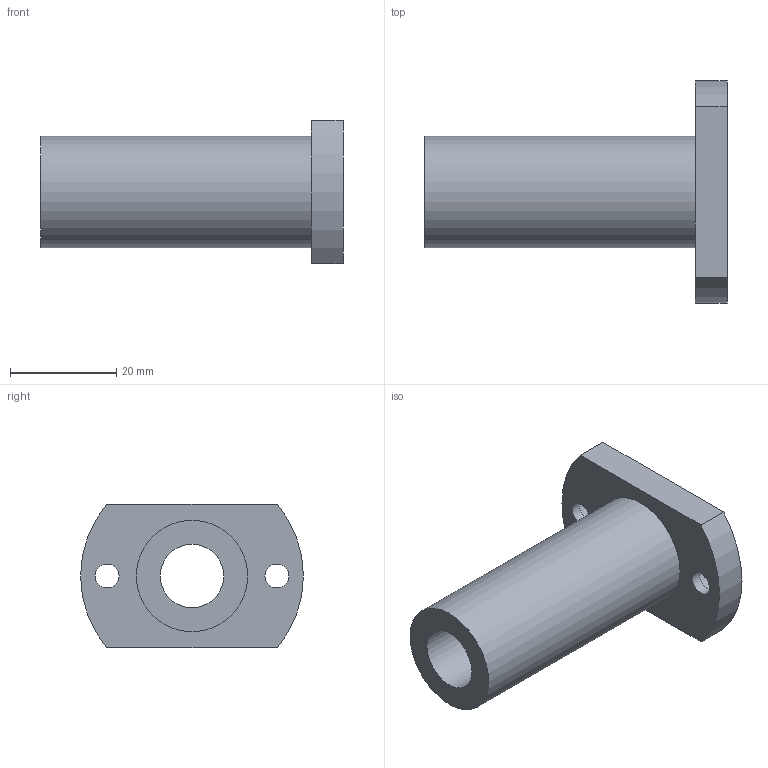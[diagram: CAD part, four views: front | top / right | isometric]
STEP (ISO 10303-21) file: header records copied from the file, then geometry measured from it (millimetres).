
FILE_DESCRIPTION(/* description */ ('Unknown'),/* implementation_level */ '2;1');
FILE_NAME(/* name */ 'LMH12LUU',/* time_stamp */ '2025-02-04T10:28:16+08:00',/* author */ ('Unknown'),/* organization */ ('Unknown'),/* preprocessor_version */ 'ST-DEVELOPER v18.102',/* originating_system */ 'Solid Edge',/* authorisation */ 'Unknown');
FILE_SCHEMA (('AUTOMOTIVE_DESIGN {1 0 10303 214 3 1 1}'));
Length unit declared in the file: millimetre
Products named in the file (1): LMH12LUU
Bounding box: 57 x 42 x 27 mm (x, y, z)
Volume: 17096 mm3; surface area: 8308.9 mm2
Topology: 1 solids, 1 shells, 15 faces, 30 edges, 20 vertices
Faces by surface type: cylinder 8, plane 7
Full cylindrical faces by diameter (mm): 4.5 x2, 7.5 x2, 12 x1, 21 x1
Entity records: 412 total; most frequent: DIRECTION 72, CARTESIAN_POINT 60, ORIENTED_EDGE 48, AXIS2_PLACEMENT_3D 32, EDGE_LOOP 30, FACE_BOUND 30, EDGE_CURVE 24, VERTEX_POINT 20
